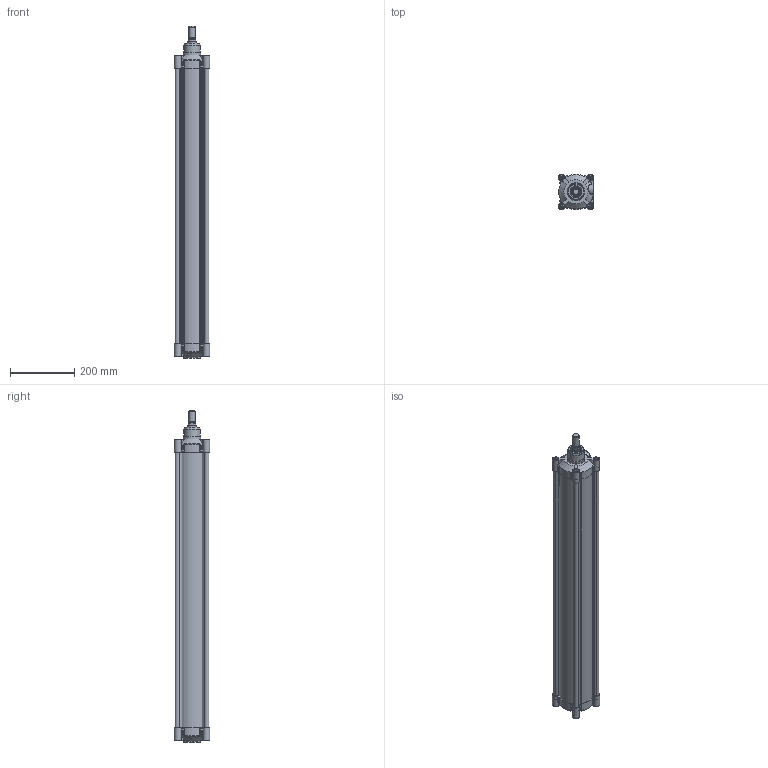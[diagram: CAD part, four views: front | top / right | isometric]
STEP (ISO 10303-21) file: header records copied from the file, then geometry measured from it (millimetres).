
FILE_DESCRIPTION(/* description */ (''),/* implementation_level */ '2;1');
FILE_NAME(/* name */ 'T:\Archivio Inventor\- 00 NUOVI STP PER SITO CON STELO CHE SI MUOVE\SERIE H - U\SERIE HDM\HDM100 - TUBO NUOVO\HDM100.800.GS.M.stp',/* time_stamp */ '2018-08-02T10:03:29+02:00',/* author */ ('carlo.corazza'),/* organization */ (''),/* preprocessor_version */ 'ST-DEVELOPER v16.5',/* originating_system */ 'Autodesk Inventor 2017',/* authorisation */ '');
FILE_SCHEMA (('AUTOMOTIVE_DESIGN { 1 0 10303 214 3 1 1 }'));
Length unit declared in the file: millimetre
Products named in the file (5): HDM100.800.GS.M; TP; TA; STELO-800; CORPO-800
Assembly tree (4 placements, depth 2):
  HDM100.800.GS.M
    TP
    TA
    STELO-800
    CORPO-800
Bounding box: 110 x 110 x 1033 mm (x, y, z)
Volume: 2428770 mm3; surface area: 1151663.7 mm2
Topology: 4 solids, 29 shells, 1355 faces, 3135 edges, 1912 vertices
Faces by surface type: plane 408, cylinder 313, bspline 270, torus 126, cone 122, sphere 116
Full cylindrical faces by diameter (mm): 5 x2, 5.9 x2, 6.5 x2, 7.25 x2, 8.376 x8, 9.4 x4, 10 x8, 10.3 x8, 11.8 x4, 11.9 x2, 12 x4, 16 x9, 16.3 x8, 17 x2, 17.5 x1, 18.631 x2, 20 x1, 24.5 x1, 25 x1, 25.8 x1, 25.962 x1, 30 x1, 31.5 x2, 35 x3, 52 x1, 55 x2, 100 x1
Entity records: 43668 total; most frequent: CARTESIAN_POINT 13702, ORIENTED_EDGE 5710, DIRECTION 5644, EDGE_CURVE 2855, AXIS2_PLACEMENT_3D 2293, VERTEX_POINT 1857, EDGE_LOOP 1690, STYLED_ITEM 1359
